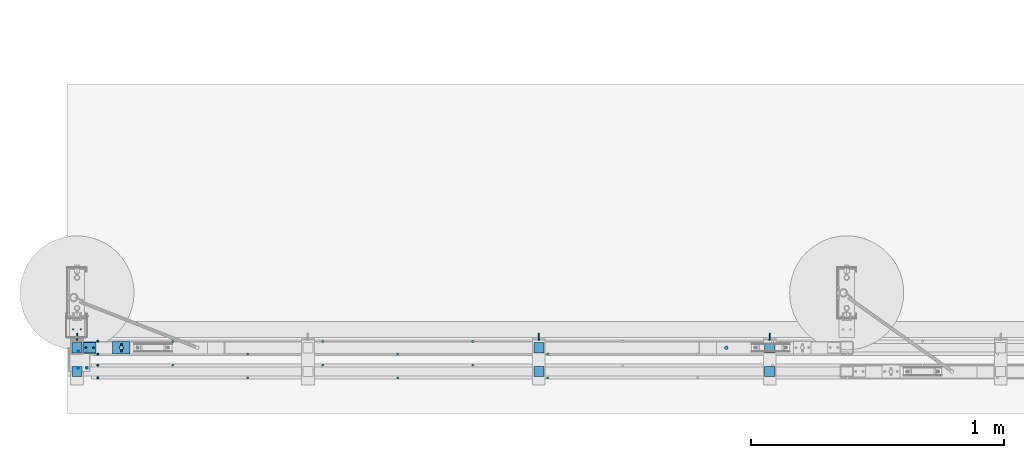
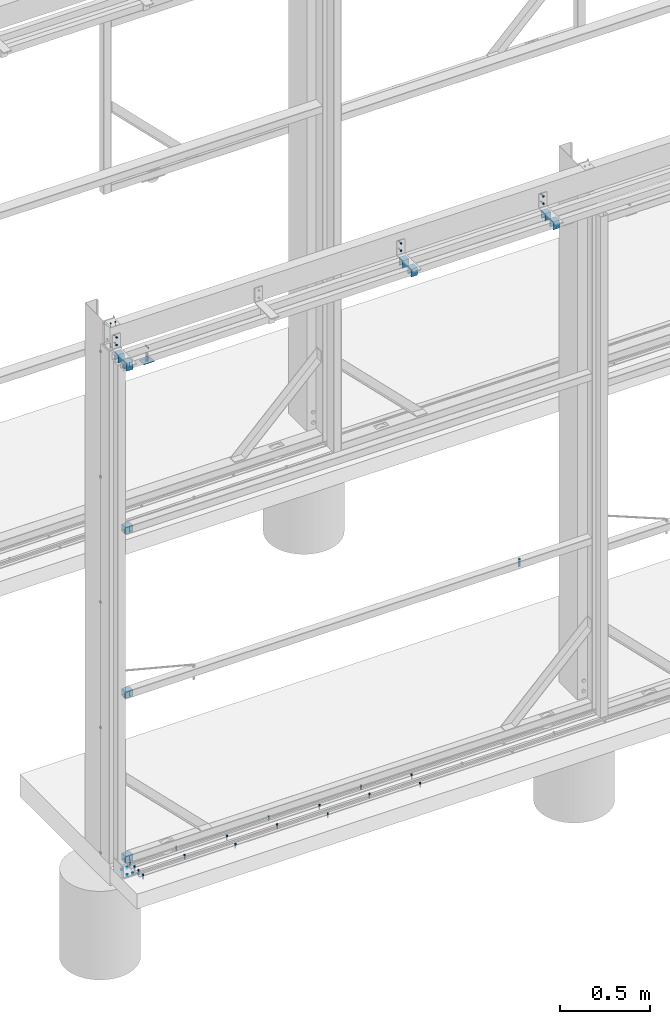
# One storey, part 27 of 91: 26 mechanical fasteners, 12 discrete accessories, 11 elements without a shape of their own.
"""IFC2X3 building model written with IfcOpenShell, lengths in millimetres."""

from ifc_helpers import new_model, si_unit, frame, origin_with_axes, origin_2d_with_axis, place, context, subcontext, project, spatial, polyline, hollow_rectangle, circle, c_section, outline, extrude, source, transform, mapped, material, type_object, element, aggregate, save


model = new_model("IFC2X3")

# Units and contexts
model_context = context("Model", 3, precision=1e-05, world=origin_with_axes())
body_context = subcontext(model_context, "Body", "Model", "MODEL_VIEW")
ifc_project = project(units=[si_unit("LENGTHUNIT", "METRE", prefix="MILLI"), si_unit("AREAUNIT", "SQUARE_METRE"), si_unit("VOLUMEUNIT", "CUBIC_METRE"), si_unit("MASSUNIT", "GRAM", prefix="KILO"), si_unit("TIMEUNIT", "SECOND"), si_unit("PLANEANGLEUNIT", "RADIAN"), si_unit("SOLIDANGLEUNIT", "STERADIAN"), si_unit("THERMODYNAMICTEMPERATUREUNIT", "DEGREE_CELSIUS"), si_unit("LUMINOUSINTENSITYUNIT", "LUMEN")], contexts=[model_context])

# Site, building, storey
site_placement = place(None, origin_with_axes())
site = spatial("IfcSite", under=ifc_project, at=site_placement, Name="Undefined", CompositionType="ELEMENT")
building_placement = place(site_placement, origin_with_axes())
building = spatial("IfcBuilding", under=site, at=building_placement, Name="Undefined", CompositionType="ELEMENT")
storey_placement = place(building_placement, origin_with_axes())
storey = spatial("IfcBuildingStorey", under=building, at=storey_placement, Name="Undefined", CompositionType="ELEMENT", Elevation=0.0)

# Assembly, discrete accessory
assembly_1_placement = place(storey_placement, origin_with_axes())
assembly_1 = element("IfcElementAssembly", 1, at=assembly_1_placement, inside=storey, Name="ROD", AssemblyPlace="NOTDEFINED", PredefinedType="RIGID_FRAME")
ifc_material_1 = material(Name="STEEL/250")
discrete_accessory_type_1 = type_object("IfcDiscreteAccessoryType", Name="PLATE")
discrete_accessory_1_placement = place(assembly_1_placement, frame((-116655.84, 84737.15, 3324.5), z_axis=(0.0, 0.0, 1.0), x_axis=(0.0, -1.0, 0.0)))
discrete_accessory_1 = element("IfcDiscreteAccessory", 2, at=discrete_accessory_1_placement, type_object=discrete_accessory_type_1, material=ifc_material_1, Name="PLATE", ObjectType="PLT3*50", context=body_context, shape_type="SweptSolid", body=[
    extrude(outline(polyline([(0.0, 0.0), (50.0, 0.0), (50.0, 70.0), (0.0, 70.0), (0.0, 0.0)])), frame((0.0, 0.0, -1.5), z_axis=(0.0, 0.0, 1.0), x_axis=(1.0, 0.0, 0.0)), (0.0, 0.0, 1.0), 3.0),
])

# Assembly, mechanical fastener
assembly_2_placement = place(storey_placement, origin_with_axes())
assembly_2 = element("IfcElementAssembly", 3, at=assembly_2_placement, inside=storey, Name="DOOR STOPPER", AssemblyPlace="NOTDEFINED", PredefinedType="RIGID_FRAME")
ifc_material_2 = material(Name="TEK_11TPIM")
discrete_accessory_type_2 = type_object("IfcDiscreteAccessoryType", Name="Bolt assembly")
shared_shape_1 = source(origin_with_axes(), body_context, "Body", "SweptSolid", [
    extrude(circle(Radius=3.0, at=origin_2d_with_axis()), frame((0.0, 0.0, 0.0), z_axis=(0.0, 1.0, 0.0), x_axis=(1.0, 0.0, 0.0)), (0.0, 0.0, 1.0), 7.9),
])
mechanical_fastener_1_placement = place(assembly_2_placement, frame((-116773.34, 84632.6509765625, -49.2), z_axis=(-1.0, 0.0, 0.0), x_axis=(0.0, 1.0, 0.0)))
mechanical_fastener_1 = element("IfcMechanicalFastener", 4, at=mechanical_fastener_1_placement, type_object=discrete_accessory_type_2, material=ifc_material_2, Name="Bolt assembly", NominalDiameter=6.0, NominalLength=7.80000019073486, context=body_context, shape_type="MappedRepresentation", body=[
    mapped(shared_shape_1, transform((0.0, 0.0, -17.5))),
    mapped(shared_shape_1, transform((65.0, 0.0, -17.5))),
    mapped(shared_shape_1, transform((0.0, 0.0, 17.5))),
    mapped(shared_shape_1, transform((65.0, 0.0, 17.5))),
])
aggregate(assembly_2, [mechanical_fastener_1])

assembly_3_placement = place(storey_placement, origin_with_axes())
assembly_3 = element("IfcElementAssembly", 5, at=assembly_3_placement, inside=storey, Name="SLIDING DOOR", AssemblyPlace="NOTDEFINED", PredefinedType="RIGID_FRAME")
ifc_material_3 = material(Name="8.8S")
shared_shape_2 = source(origin_with_axes(), body_context, "Body", "SweptSolid", [
    extrude(circle(Radius=7.0, at=origin_2d_with_axis()), frame((0.0, 0.0033333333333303, 0.0), z_axis=(0.0, 1.0, 0.0), x_axis=(1.0, 0.0, 0.0)), (0.0, 0.0, 1.0), 50.1),
])
mechanical_fastener_2_placement = place(assembly_3_placement, frame((-114233.343767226, 84712.15, 1147.34), z_axis=(1.0, 0.0, 0.0), x_axis=(0.0, -1.0, 0.0)))
mechanical_fastener_2 = element("IfcMechanicalFastener", 6, at=mechanical_fastener_2_placement, type_object=discrete_accessory_type_2, material=ifc_material_3, Name="Bolt assembly", NominalDiameter=12.0, NominalLength=49.9966659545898, context=body_context, shape_type="MappedRepresentation", body=[
    mapped(shared_shape_2, transform((0.0, 0.0, 0.0))),
])
aggregate(assembly_3, [mechanical_fastener_2])

assembly_4_placement = place(storey_placement, origin_with_axes())
assembly_4 = element("IfcElementAssembly", 7, at=assembly_4_placement, inside=storey, Name="SLIDING DOOR", AssemblyPlace="NOTDEFINED", PredefinedType="RIGID_FRAME")
shared_shape_3 = source(origin_with_axes(), body_context, "Body", "SweptSolid", [
    extrude(circle(Radius=8.0, at=origin_2d_with_axis()), frame((0.0, 0.0, 0.0), z_axis=(0.0, 1.0, 0.0), x_axis=(1.0, 0.0, 0.0)), (0.0, 0.0, 1.0), 50.1),
])
mechanical_fastener_3_placement = place(assembly_4_placement, frame((-116620.84, 84712.15, 3326.0), z_axis=(0.0, -1.0, 0.0), x_axis=(1.0, 0.0, 0.0)))
mechanical_fastener_3 = element("IfcMechanicalFastener", 8, at=mechanical_fastener_3_placement, type_object=discrete_accessory_type_2, material=ifc_material_3, Name="Bolt assembly", NominalDiameter=10.0, NominalLength=50.0, context=body_context, shape_type="MappedRepresentation", body=[
    mapped(shared_shape_3, transform((0.0, 0.0, 0.0))),
])
aggregate(assembly_4, [mechanical_fastener_3])

# Discrete accessory
discrete_accessory_type_3 = type_object("IfcDiscreteAccessoryType", Name="SPRING PIN")
discrete_accessory_2_placement = place(assembly_1_placement, frame((-116620.84, 84697.15, 3421.0), z_axis=(1.0, 0.0, 0.0), x_axis=(0.0, 1.0, 0.0)))
discrete_accessory_2 = element("IfcDiscreteAccessory", 9, at=discrete_accessory_2_placement, type_object=discrete_accessory_type_3, material=ifc_material_1, Name="SPRING PIN", ObjectType="D6", context=body_context, shape_type="SweptSolid", body=[
    extrude(circle(Radius=3.0, at=origin_2d_with_axis()), frame((30.0, 0.0, 0.0), z_axis=(-1.0, 0.0, 0.0), x_axis=(0.0, -1.0, 0.0)), (0.0, 0.0, 1.0), 30.0),
])

aggregate(assembly_1, [discrete_accessory_2, discrete_accessory_1])

# Assembly, mechanical fastener
assembly_5_placement = place(storey_placement, origin_with_axes())
assembly_5 = element("IfcElementAssembly", 10, at=assembly_5_placement, inside=storey, Name="DOOR BRACKET", AssemblyPlace="NOTDEFINED", PredefinedType="RIGID_FRAME")
shared_shape_4 = source(origin_with_axes(), body_context, "Body", "SweptSolid", [
    extrude(circle(Radius=3.0, at=origin_2d_with_axis()), frame((0.0, -6.0, 0.0), z_axis=(0.0, 1.0, 0.0), x_axis=(1.0, 0.0, 0.0)), (0.0, 0.0, 1.0), 6.1),
    extrude(outline(polyline([(4.61880215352, 0.0), (2.30940107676, 4.00000000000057), (-2.30940107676, 4.00000000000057), (-4.61880215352, 0.0), (-2.30940107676, -4.00000000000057), (2.30940107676, -4.00000000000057), (4.61880215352, 0.0)])), frame((0.0, -11.1000000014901, 0.0), z_axis=(0.0, 1.0, 0.0), x_axis=(1.0, 0.0, 0.0)), (0.0, 0.0, 1.0), 5.0),
    extrude(circle(Radius=3.0, at=origin_2d_with_axis()), frame((0.0, -6.10000000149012, 0.0), z_axis=(0.0, 1.0, 0.0), x_axis=(1.0, 0.0, 0.0)), (0.0, 0.0, 1.0), 25.0),
    extrude(circle(Radius=3.0, at=origin_2d_with_axis()), frame((0.0, -6.10000000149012, 0.0), z_axis=(0.0, 1.0, 0.0), x_axis=(1.0, 0.0, 0.0)), (0.0, 0.0, 1.0), 0.1),
    extrude(circle(Radius=3.0, at=origin_2d_with_axis()), frame((0.0, 0.0, 0.0), z_axis=(0.0, 1.0, 0.0), x_axis=(1.0, 0.0, 0.0)), (0.0, 0.0, 1.0), 0.1),
    extrude(outline(polyline([(3.46410161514, 0.0), (1.73205080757, 3.00000000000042), (-1.73205080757, 3.00000000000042), (-3.46410161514, 0.0), (-1.73205080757, -3.00000000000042), (1.73205080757, -3.00000000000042), (3.46410161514, 0.0)])), frame((0.0, 0.1, 0.0), z_axis=(0.0, 1.0, 0.0), x_axis=(1.0, 0.0, 0.0)), (0.0, 0.0, 1.0), 0.1),
])
mechanical_fastener_4_placement = place(assembly_5_placement, frame((-114062.09, 84752.15, 3524.0), z_axis=(1.0, 0.0, 0.0), x_axis=(0.0, 0.0, -1.0)))
mechanical_fastener_4 = element("IfcMechanicalFastener", 11, at=mechanical_fastener_4_placement, type_object=discrete_accessory_type_2, material=ifc_material_2, Name="Bolt assembly", NominalDiameter=6.0, NominalLength=25.0, context=body_context, shape_type="MappedRepresentation", body=[
    mapped(shared_shape_4, transform((0.0, 0.0, 0.0))),
    mapped(shared_shape_4, transform((50.0, 0.0, 0.0))),
])

assembly_6_placement = place(storey_placement, origin_with_axes())
assembly_6 = element("IfcElementAssembly", 12, at=assembly_6_placement, inside=storey, Name="DOOR BRACKET", AssemblyPlace="NOTDEFINED", PredefinedType="RIGID_FRAME")
mechanical_fastener_5_placement = place(assembly_6_placement, frame((-114973.34, 84752.15, 3524.0), z_axis=(1.0, 0.0, 0.0), x_axis=(0.0, 0.0, -1.0)))
mechanical_fastener_5 = element("IfcMechanicalFastener", 13, at=mechanical_fastener_5_placement, type_object=discrete_accessory_type_2, material=ifc_material_2, Name="Bolt assembly", NominalDiameter=6.0, NominalLength=25.0, context=body_context, shape_type="MappedRepresentation", body=[
    mapped(shared_shape_4, transform((0.0, 0.0, 0.0))),
    mapped(shared_shape_4, transform((50.0, 0.0, 0.0))),
])

assembly_7_placement = place(storey_placement, origin_with_axes())
assembly_7 = element("IfcElementAssembly", 14, at=assembly_7_placement, inside=storey, Name="DOOR BRACKET", AssemblyPlace="NOTDEFINED", PredefinedType="RIGID_FRAME")
mechanical_fastener_6_placement = place(assembly_7_placement, frame((-116795.84, 84752.15, 3524.0), z_axis=(1.0, 0.0, 0.0), x_axis=(0.0, 0.0, -1.0)))
mechanical_fastener_6 = element("IfcMechanicalFastener", 15, at=mechanical_fastener_6_placement, type_object=discrete_accessory_type_2, material=ifc_material_2, Name="Bolt assembly", NominalDiameter=6.0, NominalLength=25.0, context=body_context, shape_type="MappedRepresentation", body=[
    mapped(shared_shape_4, transform((0.0, 0.0, 0.0))),
    mapped(shared_shape_4, transform((50.0, 0.0, 0.0))),
])

# Assembly, mechanical fasteners
assembly_8_placement = place(storey_placement, origin_with_axes())
assembly_8 = element("IfcElementAssembly", 16, at=assembly_8_placement, inside=storey, Name="SLIDING DOOR", AssemblyPlace="NOTDEFINED", PredefinedType="RIGID_FRAME")
shared_shape_5 = source(origin_with_axes(), body_context, "Body", "SweptSolid", [
    extrude(circle(Radius=3.0, at=origin_2d_with_axis()), frame((0.0, 0.103333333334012, 0.0), z_axis=(0.0, 1.0, 0.0), x_axis=(1.0, 0.0, 0.0)), (0.0, 0.0, 1.0), 2.0),
    extrude(circle(Radius=3.0, at=origin_2d_with_axis()), frame((0.0, 2.4, 0.0), z_axis=(0.0, 1.0, 0.0), x_axis=(1.0, 0.0, 0.0)), (0.0, 0.0, 1.0), 1.7),
    extrude(outline(polyline([(4.61880215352, 0.0), (2.30940107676, 4.00000000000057), (-2.30940107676, 4.00000000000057), (-4.61880215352, 0.0), (-2.30940107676, -4.00000000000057), (2.30940107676, -4.00000000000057), (4.61880215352, 0.0)])), frame((0.0, -4.99666666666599, 0.0), z_axis=(0.0, 1.0, 0.0), x_axis=(1.0, 0.0, 0.0)), (0.0, 0.0, 1.0), 5.0),
    extrude(circle(Radius=3.0, at=origin_2d_with_axis()), frame((0.0, 0.0033333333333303, 0.0), z_axis=(0.0, 1.0, 0.0), x_axis=(1.0, 0.0, 0.0)), (0.0, 0.0, 1.0), 25.0),
    extrude(circle(Radius=3.0, at=origin_2d_with_axis()), frame((0.0, 4.10000002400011, 0.0), z_axis=(0.0, 1.0, 0.0), x_axis=(1.0, 0.0, 0.0)), (0.0, 0.0, 1.0), 0.1),
    extrude(outline(polyline([(3.46410161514, 0.0), (1.73205080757, 3.00000000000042), (-1.73205080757, 3.00000000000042), (-3.46410161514, 0.0), (-1.73205080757, -3.00000000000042), (1.73205080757, -3.00000000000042), (3.46410161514, 0.0)])), frame((0.0, 4.20000002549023, 0.0), z_axis=(0.0, 1.0, 0.0), x_axis=(1.0, 0.0, 0.0)), (0.0, 0.0, 1.0), 0.1),
])
mechanical_fastener_7_placement = place(assembly_8_placement, frame((-116760.84, 84712.15, 2211.66), z_axis=(0.0, -1.0, 0.0), x_axis=(1.0, 0.0, 0.0)))
mechanical_fastener_7 = element("IfcMechanicalFastener", 17, at=mechanical_fastener_7_placement, type_object=discrete_accessory_type_2, material=ifc_material_2, Name="Bolt assembly", NominalDiameter=6.0, NominalLength=25.0, context=body_context, shape_type="MappedRepresentation", body=[
    mapped(shared_shape_5, transform((0.0, 0.0, 0.0))),
    mapped(shared_shape_5, transform((30.0, 0.0, 0.0))),
])
shared_shape_6 = source(origin_with_axes(), body_context, "Body", "SweptSolid", [
    extrude(circle(Radius=3.0, at=origin_2d_with_axis()), frame((0.0, 0.0966666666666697, 0.0), z_axis=(0.0, 1.0, 0.0), x_axis=(1.0, 0.0, 0.0)), (0.0, 0.0, 1.0), 2.0),
    extrude(circle(Radius=3.0, at=origin_2d_with_axis()), frame((0.0, 2.4, 0.0), z_axis=(0.0, 1.0, 0.0), x_axis=(1.0, 0.0, 0.0)), (0.0, 0.0, 1.0), 1.7),
    extrude(outline(polyline([(4.61880215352, 0.0), (2.30940107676, 4.00000000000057), (-2.30940107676, 4.00000000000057), (-4.61880215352, 0.0), (-2.30940107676, -4.00000000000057), (2.30940107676, -4.00000000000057), (4.61880215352, 0.0)])), frame((0.0, -5.00333333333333, 0.0), z_axis=(0.0, 1.0, 0.0), x_axis=(1.0, 0.0, 0.0)), (0.0, 0.0, 1.0), 5.0),
    extrude(circle(Radius=3.0, at=origin_2d_with_axis()), frame((0.0, -0.0033333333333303, 0.0), z_axis=(0.0, 1.0, 0.0), x_axis=(1.0, 0.0, 0.0)), (0.0, 0.0, 1.0), 25.0),
    extrude(circle(Radius=3.0, at=origin_2d_with_axis()), frame((0.0, 4.10000002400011, 0.0), z_axis=(0.0, 1.0, 0.0), x_axis=(1.0, 0.0, 0.0)), (0.0, 0.0, 1.0), 0.1),
    extrude(outline(polyline([(3.46410161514, 0.0), (1.73205080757, 3.00000000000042), (-1.73205080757, 3.00000000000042), (-3.46410161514, 0.0), (-1.73205080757, -3.00000000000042), (1.73205080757, -3.00000000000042), (3.46410161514, 0.0)])), frame((0.0, 4.20000002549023, 0.0), z_axis=(0.0, 1.0, 0.0), x_axis=(1.0, 0.0, 0.0)), (0.0, 0.0, 1.0), 0.1),
])
mechanical_fastener_8_placement = place(assembly_8_placement, frame((-116760.84, 84712.15, 1097.34), z_axis=(0.0, -1.0, 0.0), x_axis=(1.0, 0.0, 0.0)))
mechanical_fastener_8 = element("IfcMechanicalFastener", 18, at=mechanical_fastener_8_placement, type_object=discrete_accessory_type_2, material=ifc_material_2, Name="Bolt assembly", NominalDiameter=6.0, NominalLength=25.0, context=body_context, shape_type="MappedRepresentation", body=[
    mapped(shared_shape_6, transform((0.0, 0.0, 0.0))),
    mapped(shared_shape_6, transform((30.0, 0.0, 0.0))),
])
ifc_material_4 = material(Name="TEK_16TPIM")
shared_shape_7 = source(origin_with_axes(), body_context, "Body", "SweptSolid", [
    extrude(circle(Radius=3.5, at=origin_2d_with_axis()), frame((0.0, 0.1, 0.0), z_axis=(0.0, 1.0, 0.0), x_axis=(1.0, 0.0, 0.0)), (0.0, 0.0, 1.0), 2.0),
    extrude(circle(Radius=3.5, at=origin_2d_with_axis()), frame((0.0, 2.4, 0.0), z_axis=(0.0, 1.0, 0.0), x_axis=(1.0, 0.0, 0.0)), (0.0, 0.0, 1.0), 1.7),
    extrude(outline(polyline([(4.04145188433, 0.0), (2.020725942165, 3.5000000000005), (-2.020725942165, 3.5000000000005), (-4.04145188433, 0.0), (-2.020725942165, -3.5000000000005), (2.020725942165, -3.5000000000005), (4.04145188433, 0.0)])), frame((0.0, -5.0, 0.0), z_axis=(0.0, 1.0, 0.0), x_axis=(1.0, 0.0, 0.0)), (0.0, 0.0, 1.0), 5.0),
    extrude(circle(Radius=2.5, at=origin_2d_with_axis()), frame((0.0, 0.0, 0.0), z_axis=(0.0, 1.0, 0.0), x_axis=(1.0, 0.0, 0.0)), (0.0, 0.0, 1.0), 25.0),
    extrude(circle(Radius=2.5, at=origin_2d_with_axis()), frame((0.0, 4.10000002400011, 0.0), z_axis=(0.0, 1.0, 0.0), x_axis=(1.0, 0.0, 0.0)), (0.0, 0.0, 1.0), 0.1),
    extrude(outline(polyline([(2.88675134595, 0.0), (1.443375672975, 2.50000000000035), (-1.443375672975, 2.50000000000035), (-2.88675134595, 0.0), (-1.443375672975, -2.50000000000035), (1.443375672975, -2.50000000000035), (2.88675134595, 0.0)])), frame((0.0, 4.20000002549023, 0.0), z_axis=(0.0, 1.0, 0.0), x_axis=(1.0, 0.0, 0.0)), (0.0, 0.0, 1.0), 0.1),
])
mechanical_fastener_9_placement = place(assembly_8_placement, frame((-116760.84, 84712.15, -17.0), z_axis=(0.0, -1.0, 0.0), x_axis=(1.0, 0.0, 0.0)))
mechanical_fastener_9 = element("IfcMechanicalFastener", 19, at=mechanical_fastener_9_placement, type_object=discrete_accessory_type_2, material=ifc_material_4, Name="Bolt assembly", NominalDiameter=5.0, NominalLength=25.0, context=body_context, shape_type="MappedRepresentation", body=[
    mapped(shared_shape_7, transform((0.0, 0.0, 0.0))),
    mapped(shared_shape_7, transform((30.0, 0.0, 0.0))),
])
shared_shape_8 = source(origin_with_axes(), body_context, "Body", "SweptSolid", [
    extrude(circle(Radius=3.0, at=origin_2d_with_axis()), frame((0.0, 0.1, 0.0), z_axis=(0.0, 1.0, 0.0), x_axis=(1.0, 0.0, 0.0)), (0.0, 0.0, 1.0), 2.0),
    extrude(circle(Radius=3.0, at=origin_2d_with_axis()), frame((0.0, 2.4, 0.0), z_axis=(0.0, 1.0, 0.0), x_axis=(1.0, 0.0, 0.0)), (0.0, 0.0, 1.0), 1.7),
    extrude(outline(polyline([(4.61880215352, 0.0), (2.30940107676, 4.00000000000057), (-2.30940107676, 4.00000000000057), (-4.61880215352, 0.0), (-2.30940107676, -4.00000000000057), (2.30940107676, -4.00000000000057), (4.61880215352, 0.0)])), frame((0.0, -5.0, 0.0), z_axis=(0.0, 1.0, 0.0), x_axis=(1.0, 0.0, 0.0)), (0.0, 0.0, 1.0), 5.0),
    extrude(circle(Radius=3.0, at=origin_2d_with_axis()), frame((0.0, 0.0, 0.0), z_axis=(0.0, 1.0, 0.0), x_axis=(1.0, 0.0, 0.0)), (0.0, 0.0, 1.0), 25.0),
    extrude(circle(Radius=3.0, at=origin_2d_with_axis()), frame((0.0, 4.10000002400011, 0.0), z_axis=(0.0, 1.0, 0.0), x_axis=(1.0, 0.0, 0.0)), (0.0, 0.0, 1.0), 0.1),
    extrude(outline(polyline([(3.46410161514, 0.0), (1.73205080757, 3.00000000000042), (-1.73205080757, 3.00000000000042), (-3.46410161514, 0.0), (-1.73205080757, -3.00000000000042), (1.73205080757, -3.00000000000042), (3.46410161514, 0.0)])), frame((0.0, 4.20000002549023, 0.0), z_axis=(0.0, 1.0, 0.0), x_axis=(1.0, 0.0, 0.0)), (0.0, 0.0, 1.0), 0.1),
])
mechanical_fastener_10_placement = place(assembly_8_placement, frame((-116760.84, 84712.15, 3326.0), z_axis=(0.0, -1.0, 0.0), x_axis=(1.0, 0.0, 0.0)))
mechanical_fastener_10 = element("IfcMechanicalFastener", 20, at=mechanical_fastener_10_placement, type_object=discrete_accessory_type_2, material=ifc_material_2, Name="Bolt assembly", NominalDiameter=6.0, NominalLength=25.0, context=body_context, shape_type="MappedRepresentation", body=[
    mapped(shared_shape_8, transform((0.0, 0.0, 0.0))),
    mapped(shared_shape_8, transform((30.0, 0.0, 0.0))),
])

assembly_9_placement = place(storey_placement, origin_with_axes())
assembly_9 = element("IfcElementAssembly", 21, at=assembly_9_placement, inside=storey, Name="DOOR TRACK", AssemblyPlace="NOTDEFINED", PredefinedType="RIGID_FRAME")
ifc_material_5 = material(Name="TEK_10TPII")
shared_shape_9 = source(origin_with_axes(), body_context, "Body", "SweptSolid", [
    extrude(circle(Radius=4.07999992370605, at=origin_2d_with_axis()), frame((0.0, 0.0, 0.0), z_axis=(0.0, 1.0, 0.0), x_axis=(1.0, 0.0, 0.0)), (0.0, 0.0, 1.0), 3.1),
    extrude(outline(polyline([(4.61880215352, 0.0), (2.30940107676, 4.00000000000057), (-2.30940107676, 4.00000000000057), (-4.61880215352, 0.0), (-2.30940107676, -4.00000000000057), (2.30940107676, -4.00000000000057), (4.61880215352, 0.0)])), frame((0.0, -5.0, 0.0), z_axis=(0.0, 1.0, 0.0), x_axis=(1.0, 0.0, 0.0)), (0.0, 0.0, 1.0), 5.0),
    extrude(circle(Radius=3.07999992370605, at=origin_2d_with_axis()), frame((0.0, 0.0, 0.0), z_axis=(0.0, 1.0, 0.0), x_axis=(1.0, 0.0, 0.0)), (0.0, 0.0, 1.0), 25.0),
    extrude(circle(Radius=3.0, at=origin_2d_with_axis()), frame((0.0, 3.0, 0.0), z_axis=(0.0, 1.0, 0.0), x_axis=(1.0, 0.0, 0.0)), (0.0, 0.0, 1.0), 0.1),
    extrude(outline(polyline([(3.46410161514, 0.0), (1.73205080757, 3.00000000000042), (-1.73205080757, 3.00000000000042), (-3.46410161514, 0.0), (-1.73205080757, -3.00000000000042), (1.73205080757, -3.00000000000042), (3.46410161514, 0.0)])), frame((0.0, 3.10000000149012, 0.0), z_axis=(0.0, 1.0, 0.0), x_axis=(1.0, 0.0, 0.0)), (0.0, 0.0, 1.0), 0.1),
])
mechanical_fastener_11_placement = place(assembly_9_placement, frame((-114938.44, 84687.151953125, -54.0), z_axis=(0.0, 1.0, 0.0), x_axis=(1.0, 0.0, 0.0)))
mechanical_fastener_11 = element("IfcMechanicalFastener", 22, at=mechanical_fastener_11_placement, type_object=discrete_accessory_type_2, material=ifc_material_5, Name="Bolt assembly", NominalDiameter=6.15999984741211, NominalLength=25.0, context=body_context, shape_type="MappedRepresentation", body=[
    mapped(shared_shape_9, transform((0.0, 0.0, 0.0))),
])
mechanical_fastener_12_placement = place(assembly_9_placement, frame((-115234.34, 84737.151953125, -54.0), z_axis=(0.0, 1.0, 0.0), x_axis=(1.0, 0.0, 0.0)))
mechanical_fastener_12 = element("IfcMechanicalFastener", 23, at=mechanical_fastener_12_placement, type_object=discrete_accessory_type_2, material=ifc_material_5, Name="Bolt assembly", NominalDiameter=6.15999984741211, NominalLength=25.0, context=body_context, shape_type="MappedRepresentation", body=[
    mapped(shared_shape_9, transform((0.0, 0.0, 0.0))),
])
mechanical_fastener_13_placement = place(assembly_9_placement, frame((-115530.24, 84687.151953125, -54.0), z_axis=(0.0, 1.0, 0.0), x_axis=(1.0, 0.0, 0.0)))
mechanical_fastener_13 = element("IfcMechanicalFastener", 24, at=mechanical_fastener_13_placement, type_object=discrete_accessory_type_2, material=ifc_material_5, Name="Bolt assembly", NominalDiameter=6.15999984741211, NominalLength=25.0, context=body_context, shape_type="MappedRepresentation", body=[
    mapped(shared_shape_9, transform((0.0, 0.0, 0.0))),
])
mechanical_fastener_14_placement = place(assembly_9_placement, frame((-115826.14, 84737.151953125, -54.0), z_axis=(0.0, 1.0, 0.0), x_axis=(1.0, 0.0, 0.0)))
mechanical_fastener_14 = element("IfcMechanicalFastener", 25, at=mechanical_fastener_14_placement, type_object=discrete_accessory_type_2, material=ifc_material_5, Name="Bolt assembly", NominalDiameter=6.15999984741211, NominalLength=25.0, context=body_context, shape_type="MappedRepresentation", body=[
    mapped(shared_shape_9, transform((0.0, 0.0, 0.0))),
])
mechanical_fastener_15_placement = place(assembly_9_placement, frame((-116122.04, 84687.151953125, -54.0), z_axis=(0.0, 1.0, 0.0), x_axis=(1.0, 0.0, 0.0)))
mechanical_fastener_15 = element("IfcMechanicalFastener", 26, at=mechanical_fastener_15_placement, type_object=discrete_accessory_type_2, material=ifc_material_5, Name="Bolt assembly", NominalDiameter=6.15999984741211, NominalLength=25.0, context=body_context, shape_type="MappedRepresentation", body=[
    mapped(shared_shape_9, transform((0.0, 0.0, 0.0))),
])
mechanical_fastener_16_placement = place(assembly_9_placement, frame((-116417.94, 84737.151953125, -54.0), z_axis=(0.0, 1.0, 0.0), x_axis=(1.0, 0.0, 0.0)))
mechanical_fastener_16 = element("IfcMechanicalFastener", 27, at=mechanical_fastener_16_placement, type_object=discrete_accessory_type_2, material=ifc_material_5, Name="Bolt assembly", NominalDiameter=6.15999984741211, NominalLength=25.0, context=body_context, shape_type="MappedRepresentation", body=[
    mapped(shared_shape_9, transform((0.0, 0.0, 0.0))),
])
mechanical_fastener_17_placement = place(assembly_9_placement, frame((-116713.84, 84712.151953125, -54.0), z_axis=(0.0, 1.0, 0.0), x_axis=(1.0, 0.0, 0.0)))
mechanical_fastener_17 = element("IfcMechanicalFastener", 28, at=mechanical_fastener_17_placement, type_object=discrete_accessory_type_2, material=ifc_material_5, Name="Bolt assembly", NominalDiameter=6.15999984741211, NominalLength=25.0, context=body_context, shape_type="MappedRepresentation", body=[
    mapped(shared_shape_9, transform((0.0, 0.0, -25.0))),
    mapped(shared_shape_9, transform((0.0, 0.0, 25.0))),
])
aggregate(assembly_9, [mechanical_fastener_11, mechanical_fastener_12, mechanical_fastener_13, mechanical_fastener_14, mechanical_fastener_15, mechanical_fastener_16, mechanical_fastener_17])

assembly_10_placement = place(storey_placement, origin_with_axes())
assembly_10 = element("IfcElementAssembly", 29, at=assembly_10_placement, inside=storey, Name="DOOR TRACK", AssemblyPlace="NOTDEFINED", PredefinedType="RIGID_FRAME")
mechanical_fastener_18_placement = place(assembly_10_placement, frame((-114938.44, 84593.151953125, -54.0), z_axis=(0.0, 1.0, 0.0), x_axis=(1.0, 0.0, 0.0)))
mechanical_fastener_18 = element("IfcMechanicalFastener", 30, at=mechanical_fastener_18_placement, type_object=discrete_accessory_type_2, material=ifc_material_5, Name="Bolt assembly", NominalDiameter=6.15999984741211, NominalLength=25.0, context=body_context, shape_type="MappedRepresentation", body=[
    mapped(shared_shape_9, transform((0.0, 0.0, 0.0))),
])
mechanical_fastener_19_placement = place(assembly_10_placement, frame((-115234.34, 84643.151953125, -54.0), z_axis=(0.0, 1.0, 0.0), x_axis=(1.0, 0.0, 0.0)))
mechanical_fastener_19 = element("IfcMechanicalFastener", 31, at=mechanical_fastener_19_placement, type_object=discrete_accessory_type_2, material=ifc_material_5, Name="Bolt assembly", NominalDiameter=6.15999984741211, NominalLength=25.0, context=body_context, shape_type="MappedRepresentation", body=[
    mapped(shared_shape_9, transform((0.0, 0.0, 0.0))),
])
mechanical_fastener_20_placement = place(assembly_10_placement, frame((-115530.24, 84593.151953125, -54.0), z_axis=(0.0, 1.0, 0.0), x_axis=(1.0, 0.0, 0.0)))
mechanical_fastener_20 = element("IfcMechanicalFastener", 32, at=mechanical_fastener_20_placement, type_object=discrete_accessory_type_2, material=ifc_material_5, Name="Bolt assembly", NominalDiameter=6.15999984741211, NominalLength=25.0, context=body_context, shape_type="MappedRepresentation", body=[
    mapped(shared_shape_9, transform((0.0, 0.0, 0.0))),
])
mechanical_fastener_21_placement = place(assembly_10_placement, frame((-115826.14, 84643.151953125, -54.0), z_axis=(0.0, 1.0, 0.0), x_axis=(1.0, 0.0, 0.0)))
mechanical_fastener_21 = element("IfcMechanicalFastener", 33, at=mechanical_fastener_21_placement, type_object=discrete_accessory_type_2, material=ifc_material_5, Name="Bolt assembly", NominalDiameter=6.15999984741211, NominalLength=25.0, context=body_context, shape_type="MappedRepresentation", body=[
    mapped(shared_shape_9, transform((0.0, 0.0, 0.0))),
])
mechanical_fastener_22_placement = place(assembly_10_placement, frame((-116122.04, 84593.151953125, -54.0), z_axis=(0.0, 1.0, 0.0), x_axis=(1.0, 0.0, 0.0)))
mechanical_fastener_22 = element("IfcMechanicalFastener", 34, at=mechanical_fastener_22_placement, type_object=discrete_accessory_type_2, material=ifc_material_5, Name="Bolt assembly", NominalDiameter=6.15999984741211, NominalLength=25.0, context=body_context, shape_type="MappedRepresentation", body=[
    mapped(shared_shape_9, transform((0.0, 0.0, 0.0))),
])
mechanical_fastener_23_placement = place(assembly_10_placement, frame((-116417.94, 84643.151953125, -54.0), z_axis=(0.0, 1.0, 0.0), x_axis=(1.0, 0.0, 0.0)))
mechanical_fastener_23 = element("IfcMechanicalFastener", 35, at=mechanical_fastener_23_placement, type_object=discrete_accessory_type_2, material=ifc_material_5, Name="Bolt assembly", NominalDiameter=6.15999984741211, NominalLength=25.0, context=body_context, shape_type="MappedRepresentation", body=[
    mapped(shared_shape_9, transform((0.0, 0.0, 0.0))),
])
mechanical_fastener_24_placement = place(assembly_10_placement, frame((-116713.84, 84618.151953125, -54.0), z_axis=(0.0, 1.0, 0.0), x_axis=(1.0, 0.0, 0.0)))
mechanical_fastener_24 = element("IfcMechanicalFastener", 36, at=mechanical_fastener_24_placement, type_object=discrete_accessory_type_2, material=ifc_material_5, Name="Bolt assembly", NominalDiameter=6.15999984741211, NominalLength=25.0, context=body_context, shape_type="MappedRepresentation", body=[
    mapped(shared_shape_9, transform((0.0, 0.0, -25.0))),
    mapped(shared_shape_9, transform((0.0, 0.0, 25.0))),
])
aggregate(assembly_10, [mechanical_fastener_18, mechanical_fastener_19, mechanical_fastener_20, mechanical_fastener_21, mechanical_fastener_22, mechanical_fastener_23, mechanical_fastener_24])

assembly_11_placement = place(storey_placement, origin_with_axes())
assembly_11 = element("IfcElementAssembly", 37, at=assembly_11_placement, inside=storey, Name="FASCIA BRACKET", AssemblyPlace="NOTDEFINED", PredefinedType="RIGID_FRAME")
shared_shape_10 = source(origin_with_axes(), body_context, "Body", "SweptSolid", [
    extrude(circle(Radius=3.5, at=origin_2d_with_axis()), frame((0.0, -2.59999694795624, 0.0), z_axis=(0.0, 1.0, 0.0), x_axis=(1.0, 0.0, 0.0)), (0.0, 0.0, 1.0), 1.7),
    extrude(outline(polyline([(4.04145188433, 0.0), (2.020725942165, 3.5000000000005), (-2.020725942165, 3.5000000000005), (-4.04145188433, 0.0), (-2.020725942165, -3.5000000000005), (2.020725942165, -3.5000000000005), (4.04145188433, 0.0)])), frame((0.0, -7.69999694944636, 0.0), z_axis=(0.0, 1.0, 0.0), x_axis=(1.0, 0.0, 0.0)), (0.0, 0.0, 1.0), 5.0),
    extrude(circle(Radius=2.5, at=origin_2d_with_axis()), frame((0.0, -2.69999694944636, 0.0), z_axis=(0.0, 1.0, 0.0), x_axis=(1.0, 0.0, 0.0)), (0.0, 0.0, 1.0), 25.0),
    extrude(circle(Radius=2.5, at=origin_2d_with_axis()), frame((0.0, -2.69999694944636, 0.0), z_axis=(0.0, 1.0, 0.0), x_axis=(1.0, 0.0, 0.0)), (0.0, 0.0, 1.0), 0.1),
    extrude(circle(Radius=2.5, at=origin_2d_with_axis()), frame((0.0, -1.0, 0.0), z_axis=(0.0, 1.0, 0.0), x_axis=(1.0, 0.0, 0.0)), (0.0, 0.0, 1.0), 0.1),
    extrude(outline(polyline([(2.88675134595, 0.0), (1.443375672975, 2.50000000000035), (-1.443375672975, 2.50000000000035), (-2.88675134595, 0.0), (-1.443375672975, -2.50000000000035), (1.443375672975, -2.50000000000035), (2.88675134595, 0.0)])), frame((0.0, -0.899996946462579, 0.0), z_axis=(0.0, 1.0, 0.0), x_axis=(1.0, 0.0, 0.0)), (0.0, 0.0, 1.0), 0.1),
])
mechanical_fastener_25_placement = place(assembly_11_placement, frame((-116795.839999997, 84784.1514572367, 3444.01721782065), z_axis=(-1.0, 0.0, 0.0), x_axis=(0.0, -1.0, 0.0)))
mechanical_fastener_25 = element("IfcMechanicalFastener", 38, at=mechanical_fastener_25_placement, type_object=discrete_accessory_type_2, material=ifc_material_4, Name="Bolt assembly", NominalDiameter=5.0, NominalLength=25.0, context=body_context, shape_type="MappedRepresentation", body=[
    mapped(shared_shape_10, transform((0.0, 0.0, -15.0))),
    mapped(shared_shape_10, transform((0.0, 0.0, 15.0))),
])
mechanical_fastener_26_placement = place(assembly_11_placement, frame((-116795.839999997, 84784.1514572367, 3596.01721782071), z_axis=(1.0, 0.0, 0.0), x_axis=(0.0, -1.0, 0.0)))
mechanical_fastener_26 = element("IfcMechanicalFastener", 39, at=mechanical_fastener_26_placement, type_object=discrete_accessory_type_2, material=ifc_material_4, Name="Bolt assembly", NominalDiameter=5.0, NominalLength=25.0, context=body_context, shape_type="MappedRepresentation", body=[
    mapped(shared_shape_10, transform((0.0, 0.0, -15.0))),
    mapped(shared_shape_10, transform((0.0, 0.0, 15.0))),
])
aggregate(assembly_11, [mechanical_fastener_25, mechanical_fastener_26])

# Discrete accessory
discrete_accessory_type_4 = type_object("IfcDiscreteAccessoryType", Name="SLIDING DOOR BRACKET")
discrete_accessory_3_placement = place(assembly_5_placement, frame((-114082.09, 84618.15, 3417.5), z_axis=(0.0, -1.0, 0.0), x_axis=(1.0, 0.0, 0.0)))
discrete_accessory_3 = element("IfcDiscreteAccessory", 40, at=discrete_accessory_3_placement, type_object=discrete_accessory_type_4, material=ifc_material_1, Name="SLIDING DOOR BRACKET", ObjectType="CC41-1.5-7-53", context=body_context, shape_type="SweptSolid", body=[
    extrude(c_section(Depth=41.0, Width=53.0, WallThickness=1.5, Girth=7.0, at=origin_2d_with_axis()), frame((40.0, 0.0, 0.0), z_axis=(-1.0, 0.0, 0.0), x_axis=(0.0, -1.0, 0.0)), (0.0, 0.0, 1.0), 40.0),
])

discrete_accessory_4_placement = place(assembly_5_placement, frame((-114082.09, 84712.15, 3417.5), z_axis=(0.0, -1.0, 0.0), x_axis=(1.0, 0.0, 0.0)))
discrete_accessory_4 = element("IfcDiscreteAccessory", 41, at=discrete_accessory_4_placement, type_object=discrete_accessory_type_4, material=ifc_material_1, Name="SLIDING DOOR BRACKET", ObjectType="CC41-1.5-7-53", context=body_context, shape_type="SweptSolid", body=[
    extrude(c_section(Depth=41.0, Width=53.0, WallThickness=1.5, Girth=7.0, at=origin_2d_with_axis()), frame((40.0, 0.0, 0.0), z_axis=(-1.0, 0.0, 0.0), x_axis=(0.0, -1.0, 0.0)), (0.0, 0.0, 1.0), 40.0),
])

aggregate(assembly_5, [mechanical_fastener_4, discrete_accessory_3, discrete_accessory_4])

discrete_accessory_5_placement = place(assembly_6_placement, frame((-114993.34, 84618.15, 3417.5), z_axis=(0.0, -1.0, 0.0), x_axis=(1.0, 0.0, 0.0)))
discrete_accessory_5 = element("IfcDiscreteAccessory", 42, at=discrete_accessory_5_placement, type_object=discrete_accessory_type_4, material=ifc_material_1, Name="SLIDING DOOR BRACKET", ObjectType="CC41-1.5-7-53", context=body_context, shape_type="SweptSolid", body=[
    extrude(c_section(Depth=41.0, Width=53.0, WallThickness=1.5, Girth=7.0, at=origin_2d_with_axis()), frame((40.0, 0.0, 0.0), z_axis=(-1.0, 0.0, 0.0), x_axis=(0.0, -1.0, 0.0)), (0.0, 0.0, 1.0), 40.0),
])

discrete_accessory_6_placement = place(assembly_6_placement, frame((-114993.34, 84712.15, 3417.5), z_axis=(0.0, -1.0, 0.0), x_axis=(1.0, 0.0, 0.0)))
discrete_accessory_6 = element("IfcDiscreteAccessory", 43, at=discrete_accessory_6_placement, type_object=discrete_accessory_type_4, material=ifc_material_1, Name="SLIDING DOOR BRACKET", ObjectType="CC41-1.5-7-53", context=body_context, shape_type="SweptSolid", body=[
    extrude(c_section(Depth=41.0, Width=53.0, WallThickness=1.5, Girth=7.0, at=origin_2d_with_axis()), frame((40.0, 0.0, 0.0), z_axis=(-1.0, 0.0, 0.0), x_axis=(0.0, -1.0, 0.0)), (0.0, 0.0, 1.0), 40.0),
])

aggregate(assembly_6, [mechanical_fastener_5, discrete_accessory_5, discrete_accessory_6])

discrete_accessory_7_placement = place(assembly_7_placement, frame((-116815.84, 84618.15, 3417.5), z_axis=(0.0, -1.0, 0.0), x_axis=(1.0, 0.0, 0.0)))
discrete_accessory_7 = element("IfcDiscreteAccessory", 44, at=discrete_accessory_7_placement, type_object=discrete_accessory_type_4, material=ifc_material_1, Name="SLIDING DOOR BRACKET", ObjectType="CC41-1.5-7-53", context=body_context, shape_type="SweptSolid", body=[
    extrude(c_section(Depth=41.0, Width=53.0, WallThickness=1.5, Girth=7.0, at=origin_2d_with_axis()), frame((40.0, 0.0, 0.0), z_axis=(-1.0, 0.0, 0.0), x_axis=(0.0, -1.0, 0.0)), (0.0, 0.0, 1.0), 40.0),
])

discrete_accessory_8_placement = place(assembly_7_placement, frame((-116815.84, 84712.15, 3417.5), z_axis=(0.0, -1.0, 0.0), x_axis=(1.0, 0.0, 0.0)))
discrete_accessory_8 = element("IfcDiscreteAccessory", 45, at=discrete_accessory_8_placement, type_object=discrete_accessory_type_4, material=ifc_material_1, Name="SLIDING DOOR BRACKET", ObjectType="CC41-1.5-7-53", context=body_context, shape_type="SweptSolid", body=[
    extrude(c_section(Depth=41.0, Width=53.0, WallThickness=1.5, Girth=7.0, at=origin_2d_with_axis()), frame((40.0, 0.0, 0.0), z_axis=(-1.0, 0.0, 0.0), x_axis=(0.0, -1.0, 0.0)), (0.0, 0.0, 1.0), 40.0),
])

aggregate(assembly_7, [mechanical_fastener_6, discrete_accessory_7, discrete_accessory_8])

ifc_material_6 = material(Name="STEEL/300")
discrete_accessory_type_5 = type_object("IfcDiscreteAccessoryType", Name="SLIDING DOOR")
discrete_accessory_9_placement = place(assembly_8_placement, frame((-116720.84, 84712.15, 3351.0), z_axis=(0.0, -1.0, 0.0), x_axis=(-1.0, 0.0, 0.0)))
discrete_accessory_9 = element("IfcDiscreteAccessory", 46, at=discrete_accessory_9_placement, type_object=discrete_accessory_type_5, material=ifc_material_6, Name="SLIDING DOOR", ObjectType="SHS:45X45X1.6", context=body_context, shape_type="SweptSolid", body=[
    extrude(hollow_rectangle(XDim=45.0, YDim=45.0, WallThickness=1.600000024, InnerFilletRadius=1.600000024, OuterFilletRadius=3.200000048, at=origin_2d_with_axis()), frame((50.0, 0.0, 0.0), z_axis=(-1.0, 0.0, 0.0), x_axis=(0.0, -1.0, 0.0)), (0.0, 0.0, 1.0), 50.0),
])

discrete_accessory_10_placement = place(assembly_8_placement, frame((-116720.84, 84712.15, 2236.66), z_axis=(0.0, -1.0, 0.0), x_axis=(-1.0, 0.0, 0.0)))
discrete_accessory_10 = element("IfcDiscreteAccessory", 47, at=discrete_accessory_10_placement, type_object=discrete_accessory_type_5, material=ifc_material_6, Name="SLIDING DOOR", ObjectType="SHS:45X45X1.6", context=body_context, shape_type="SweptSolid", body=[
    extrude(hollow_rectangle(XDim=45.0, YDim=45.0, WallThickness=1.600000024, InnerFilletRadius=1.600000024, OuterFilletRadius=3.200000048, at=origin_2d_with_axis()), frame((50.0, 0.0, 0.0), z_axis=(-1.0, 0.0, 0.0), x_axis=(0.0, -1.0, 0.0)), (0.0, 0.0, 1.0), 50.0),
])

discrete_accessory_11_placement = place(assembly_8_placement, frame((-116720.84, 84712.15, 1122.34), z_axis=(0.0, -1.0, 0.0), x_axis=(-1.0, 0.0, 0.0)))
discrete_accessory_11 = element("IfcDiscreteAccessory", 48, at=discrete_accessory_11_placement, type_object=discrete_accessory_type_5, material=ifc_material_6, Name="SLIDING DOOR", ObjectType="SHS:45X45X1.6", context=body_context, shape_type="SweptSolid", body=[
    extrude(hollow_rectangle(XDim=45.0, YDim=45.0, WallThickness=1.600000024, InnerFilletRadius=1.600000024, OuterFilletRadius=3.200000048, at=origin_2d_with_axis()), frame((50.0, 0.0, 0.0), z_axis=(-1.0, 0.0, 0.0), x_axis=(0.0, -1.0, 0.0)), (0.0, 0.0, 1.0), 50.0),
])

discrete_accessory_12_placement = place(assembly_8_placement, frame((-116720.84, 84712.15, 8.0), z_axis=(0.0, -1.0, 0.0), x_axis=(-1.0, 0.0, 0.0)))
discrete_accessory_12 = element("IfcDiscreteAccessory", 49, at=discrete_accessory_12_placement, type_object=discrete_accessory_type_5, material=ifc_material_6, Name="SLIDING DOOR", ObjectType="SHS:45X45X1.6", context=body_context, shape_type="SweptSolid", body=[
    extrude(hollow_rectangle(XDim=45.0, YDim=45.0, WallThickness=1.600000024, InnerFilletRadius=1.600000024, OuterFilletRadius=3.200000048, at=origin_2d_with_axis()), frame((50.0, 0.0, 0.0), z_axis=(-1.0, 0.0, 0.0), x_axis=(0.0, -1.0, 0.0)), (0.0, 0.0, 1.0), 50.0),
])

aggregate(assembly_8, [mechanical_fastener_7, mechanical_fastener_8, mechanical_fastener_9, mechanical_fastener_10, discrete_accessory_9, discrete_accessory_10, discrete_accessory_11, discrete_accessory_12])

save(model, "model.ifc")
